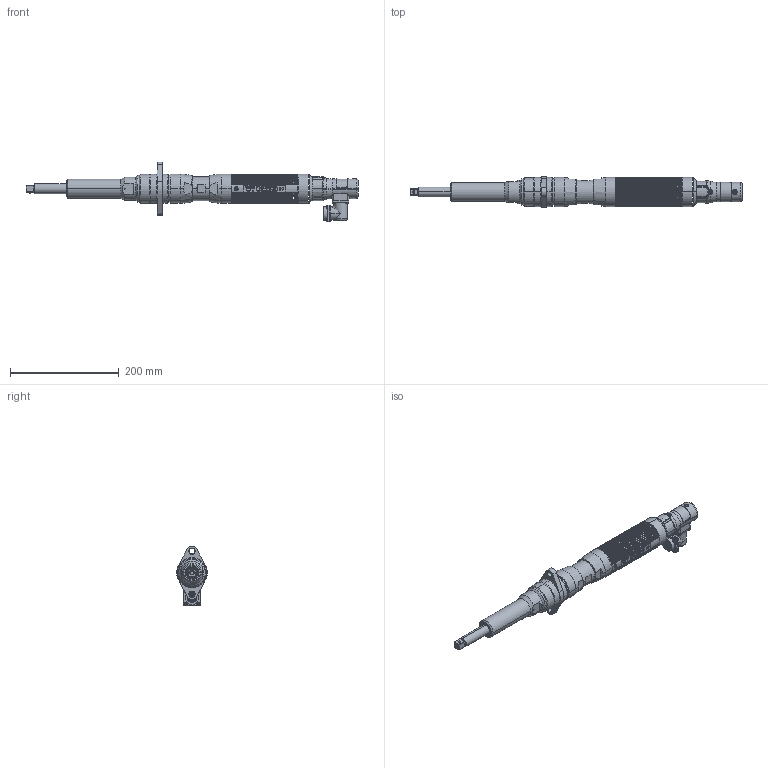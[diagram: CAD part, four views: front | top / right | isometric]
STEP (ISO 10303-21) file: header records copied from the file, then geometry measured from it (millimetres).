
FILE_DESCRIPTION((''),'2;1');
FILE_NAME('EB44MB1F2-80','2017-05-22T',('DMG0713'),(''),'PRO/ENGINEER BY PARAMETRIC TECHNOLOGY CORPORATION, 2010430','PRO/ENGINEER BY PARAMETRIC TECHNOLOGY CORPORATION, 2010430','');
FILE_SCHEMA(('CONFIG_CONTROL_DESIGN'));
Length unit declared in the file: inch
Products named in the file (1): EB44MB1F2-80
Bounding box: 610.98 x 56.39 x 110.39 mm (x, y, z)
Surface area: 109738.3 mm2 (no closed solid volume)
Topology: 0 solids, 114 shells, 612 faces, 3190 edges, 2602 vertices
Faces by surface type: cylinder 269, plane 170, cone 74, torus 51, bspline 46, extrusion 2
Entity records: 38144 total; most frequent: CARTESIAN_POINT 14405, DIRECTION 4611, ORIENTED_EDGE 4229, EDGE_CURVE 3190, VERTEX_POINT 2602, VECTOR 1719, LINE 1717, AXIS2_PLACEMENT_3D 1446
